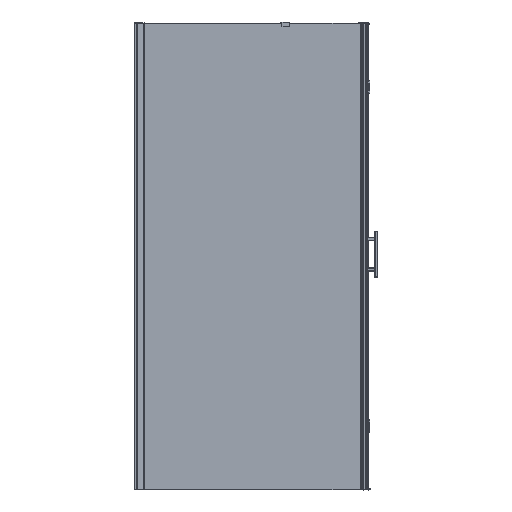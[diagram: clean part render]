
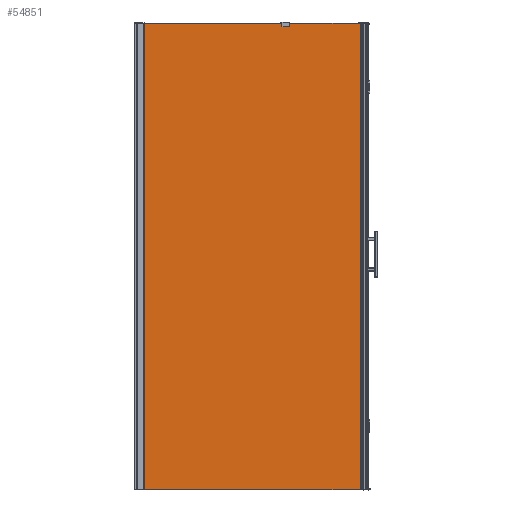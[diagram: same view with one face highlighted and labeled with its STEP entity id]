
A CAD part, top view. The second image highlights one B-rep face of the part: STEP entity #54851.
In plain terms, the highlighted planar face has unit normal (0, 0, 1).
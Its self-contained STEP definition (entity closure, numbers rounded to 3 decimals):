
#5884=FACE_OUTER_BOUND('',#9278,.T.);
#9278=EDGE_LOOP('',(#36307,#36308,#36309,#36310));
#12830=LINE('',#77195,#17663);
#12838=LINE('',#77210,#17671);
#12839=LINE('',#77212,#17672);
#12840=LINE('',#77213,#17673);
#17663=VECTOR('',#63004,10.);
#17671=VECTOR('',#63016,10.);
#17672=VECTOR('',#63019,10.);
#17673=VECTOR('',#63020,10.);
#22495=VERTEX_POINT('',#77191);
#22497=VERTEX_POINT('',#77194);
#22501=VERTEX_POINT('',#77206);
#22502=VERTEX_POINT('',#77208);
#27774=EDGE_CURVE('',#22495,#22497,#12830,.T.);
#27782=EDGE_CURVE('',#22501,#22502,#12838,.T.);
#27783=EDGE_CURVE('',#22501,#22495,#12839,.T.);
#27784=EDGE_CURVE('',#22497,#22502,#12840,.T.);
#36307=ORIENTED_EDGE('',*,*,#27783,.F.);
#36308=ORIENTED_EDGE('',*,*,#27782,.T.);
#36309=ORIENTED_EDGE('',*,*,#27784,.F.);
#36310=ORIENTED_EDGE('',*,*,#27774,.F.);
#53342=PLANE('',#58323);
#54851=ADVANCED_FACE('',(#5884),#53342,.T.);
#58323=AXIS2_PLACEMENT_3D('',#77211,#63017,#63018);
#63004=DIRECTION('',(0.,1.,0.));
#63016=DIRECTION('',(0.,1.,0.));
#63017=DIRECTION('center_axis',(0.,0.,
1.));
#63018=DIRECTION('ref_axis',(1.,0.,0.));
#63019=DIRECTION('',(-1.,0.,0.));
#63020=DIRECTION('',(1.,0.,0.));
#77191=CARTESIAN_POINT('',(-1351.543,-1449.831,-919.));
#77194=CARTESIAN_POINT('',(-1351.543,500.169,-919.));
#77195=CARTESIAN_POINT('',(-1351.543,-1349.831,-919.));
#77206=CARTESIAN_POINT('',(-424.944,-1449.831,-919.));
#77208=CARTESIAN_POINT('',(-424.944,500.169,-919.));
#77210=CARTESIAN_POINT('',(-424.944,-1349.831,-919.));
#77211=CARTESIAN_POINT('Origin',(-1351.543,-1349.831,-919.));
#77212=CARTESIAN_POINT('',(-1119.894,-1449.831,-919.));
#77213=CARTESIAN_POINT('',(-424.944,500.169,-919.));
